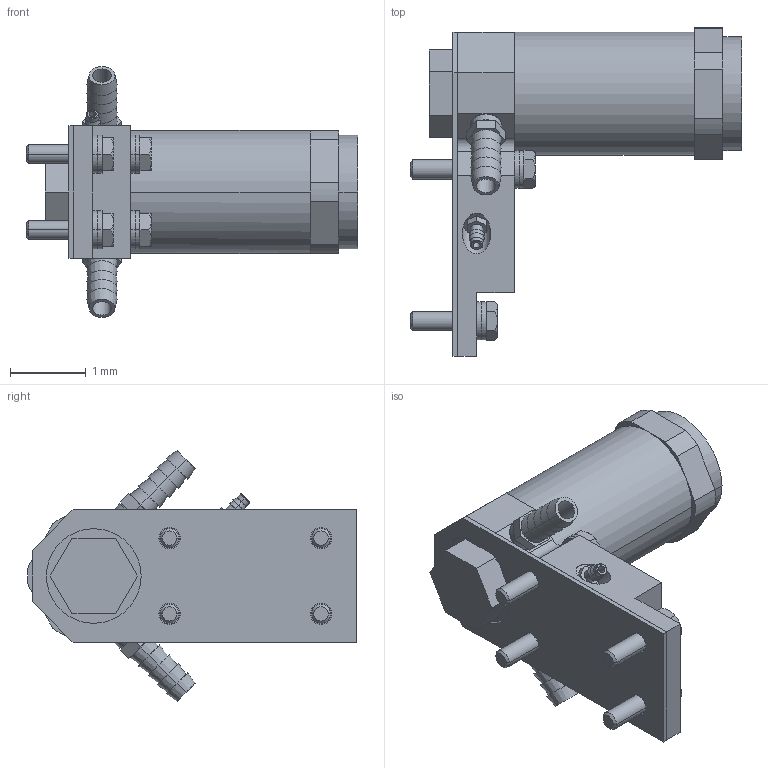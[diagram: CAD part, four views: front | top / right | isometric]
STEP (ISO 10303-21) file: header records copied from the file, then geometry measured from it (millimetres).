
FILE_DESCRIPTION((''),'2;1');
FILE_NAME('XM4.stp','2017-11-07T12:48:21',(''),(''),'Mechanical Desktop 2011','Mechanical Desktop 2011',', , ');
FILE_SCHEMA(('CONFIG_CONTROL_DESIGN'));
Length unit declared in the file: millimetre
Products named in the file (1): Product
Bounding box: 4.38 x 4.34 x 3.31 mm (x, y, z)
Volume: 11.6 mm3; surface area: 87.6 mm2
Topology: 22 solids, 22 shells, 337 faces, 737 edges, 474 vertices
Faces by surface type: plane 132, cylinder 103, cone 62, bspline 36, torus 4
Full cylindrical faces by diameter (mm): 0.375 x1
Entity records: 9919 total; most frequent: CARTESIAN_POINT 2315, DIRECTION 1624, ORIENTED_EDGE 1474, EDGE_CURVE 737, AXIS2_PLACEMENT_3D 635, VERTEX_POINT 474, EDGE_LOOP 411, VECTOR 354
